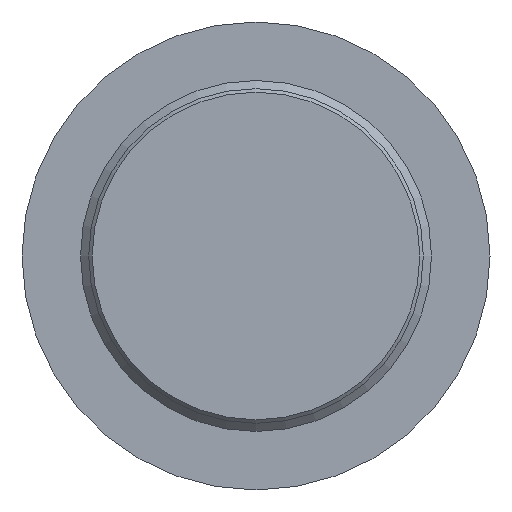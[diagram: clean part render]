
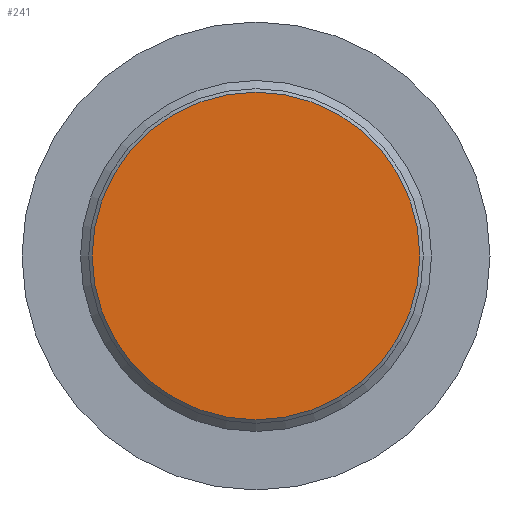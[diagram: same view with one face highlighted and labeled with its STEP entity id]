
A CAD part, front view. The second image highlights one B-rep face of the part: STEP entity #241.
In plain terms, the highlighted planar face has unit normal (0, -1, 0).
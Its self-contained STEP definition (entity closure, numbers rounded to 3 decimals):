
#26=PLANE('',#279);
#34=FACE_OUTER_BOUND('',#49,.T.);
#49=EDGE_LOOP('',(#175));
#86=CIRCLE('',#278,7.);
#112=VERTEX_POINT('',#414);
#139=EDGE_CURVE('',#112,#112,#86,.T.);
#175=ORIENTED_EDGE('',*,*,#139,.F.);
#241=ADVANCED_FACE('',(#34),#26,.T.);
#278=AXIS2_PLACEMENT_3D('',#416,#325,#326);
#279=AXIS2_PLACEMENT_3D('',#417,#327,#328);
#325=DIRECTION('center_axis',(0.,1.,0.));
#326=DIRECTION('ref_axis',(0.,0.,-1.));
#327=DIRECTION('center_axis',(0.,-1.,0.));
#328=DIRECTION('ref_axis',(0.,0.,-1.));
#414=CARTESIAN_POINT('',(0.,-700.,7.));
#416=CARTESIAN_POINT('Origin',(0.,-700.,0.));
#417=CARTESIAN_POINT('Origin',(0.,-700.,7.5));
